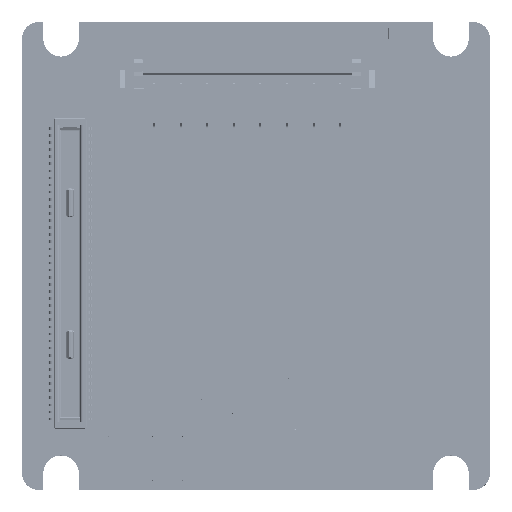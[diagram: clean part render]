
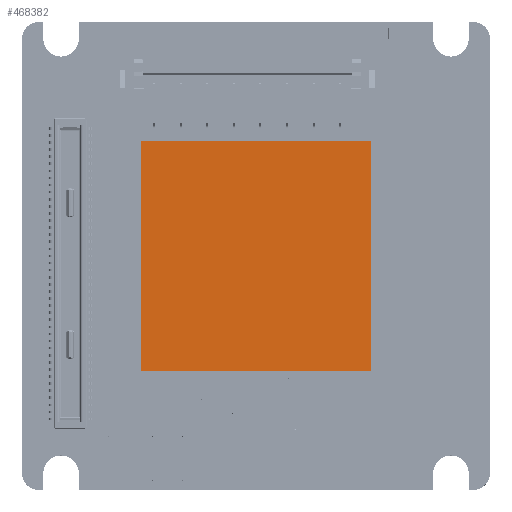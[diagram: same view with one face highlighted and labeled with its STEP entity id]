
A CAD part, top view. The second image highlights one B-rep face of the part: STEP entity #468382.
In plain terms, the highlighted planar face has unit normal (0, 0, 1).
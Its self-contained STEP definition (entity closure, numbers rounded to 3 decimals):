
#31135 = VERTEX_POINT ( 'NONE', #408705 ) ;
#42933 = ORIENTED_EDGE ( 'NONE', *, *, #559839, .F. ) ;
#49582 = EDGE_CURVE ( 'NONE', #279398, #88400, #442148, .T. ) ;
#60766 = CARTESIAN_POINT ( 'NONE',  ( -6.5, -6.5, 6.162 ) ) ;
#64056 = LINE ( 'NONE', #444002, #568305 ) ;
#77685 = EDGE_LOOP ( 'NONE', ( #477098, #357366, #536866, #42933 ) ) ;
#83282 = VECTOR ( 'NONE', #164312, 1000. ) ;
#88400 = VERTEX_POINT ( 'NONE', #244198 ) ;
#145134 = EDGE_CURVE ( 'NONE', #88400, #31135, #64056, .T. ) ;
#162667 = CARTESIAN_POINT ( 'NONE',  ( 6.5, 6.5, 6.162 ) ) ;
#164312 = DIRECTION ( 'NONE',  ( 0., 1., 0. ) ) ;
#244198 = CARTESIAN_POINT ( 'NONE',  ( 6.5, -6.5, 6.162 ) ) ;
#261649 = AXIS2_PLACEMENT_3D ( 'NONE', #275330, #407318, #404219 ) ;
#275330 = CARTESIAN_POINT ( 'NONE',  ( 0., 0., 6.162 ) ) ;
#279398 = VERTEX_POINT ( 'NONE', #617930 ) ;
#294152 = EDGE_CURVE ( 'NONE', #600491, #279398, #554179, .T. ) ;
#320410 = VECTOR ( 'NONE', #406875, 1000. ) ;
#328623 = CARTESIAN_POINT ( 'NONE',  ( -6.5, 6.5, 6.162 ) ) ;
#351616 = VECTOR ( 'NONE', #498442, 1000. ) ;
#357366 = ORIENTED_EDGE ( 'NONE', *, *, #49582, .F. ) ;
#404219 = DIRECTION ( 'NONE',  ( 0., -1., 0. ) ) ;
#406875 = DIRECTION ( 'NONE',  ( 1., 0., 0. ) ) ;
#407318 = DIRECTION ( 'NONE',  ( 0., 0., -1. ) ) ;
#408705 = CARTESIAN_POINT ( 'NONE',  ( -6.5, -6.5, 6.162 ) ) ;
#410408 = FACE_OUTER_BOUND ( 'NONE', #77685, .T. ) ;
#442148 = LINE ( 'NONE', #162667, #351616 ) ;
#444002 = CARTESIAN_POINT ( 'NONE',  ( 6.5, -6.5, 6.162 ) ) ;
#457018 = CARTESIAN_POINT ( 'NONE',  ( -6.5, 6.5, 6.162 ) ) ;
#468382 = ADVANCED_FACE ( 'NONE', ( #410408 ), #551533, .F. ) ;
#477098 = ORIENTED_EDGE ( 'NONE', *, *, #145134, .F. ) ;
#498442 = DIRECTION ( 'NONE',  ( 0., -1., 0. ) ) ;
#536866 = ORIENTED_EDGE ( 'NONE', *, *, #294152, .F. ) ;
#551533 = PLANE ( 'NONE',  #261649 ) ;
#554179 = LINE ( 'NONE', #457018, #320410 ) ;
#559839 = EDGE_CURVE ( 'NONE', #31135, #600491, #594260, .T. ) ;
#568305 = VECTOR ( 'NONE', #588251, 1000. ) ;
#588251 = DIRECTION ( 'NONE',  ( -1., 0., 0. ) ) ;
#594260 = LINE ( 'NONE', #60766, #83282 ) ;
#600491 = VERTEX_POINT ( 'NONE', #328623 ) ;
#617930 = CARTESIAN_POINT ( 'NONE',  ( 6.5, 6.5, 6.162 ) ) ;
